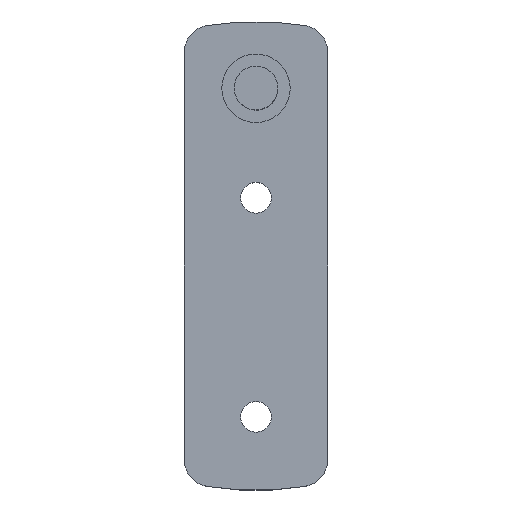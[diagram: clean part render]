
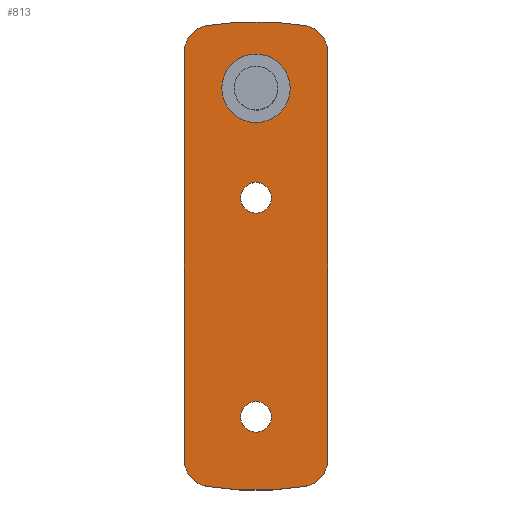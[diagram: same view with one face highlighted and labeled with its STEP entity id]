
A CAD part, top view. The second image highlights one B-rep face of the part: STEP entity #813.
In plain terms, the highlighted planar face has unit normal (0, 0, 1).
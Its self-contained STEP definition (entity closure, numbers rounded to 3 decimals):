
#3 = CARTESIAN_POINT ( 'NONE',  ( 2.25, 7.75, 3.5 ) ) ;
#30 = CARTESIAN_POINT ( 'NONE',  ( 0., 23.75, 3.5 ) ) ;
#31 = DIRECTION ( 'NONE',  ( 0., 0., 1. ) ) ;
#42 = VECTOR ( 'NONE', #441, 1000. ) ;
#83 = DIRECTION ( 'NONE',  ( -1., 0., 0. ) ) ;
#123 = DIRECTION ( 'NONE',  ( -1., 0., 0. ) ) ;
#129 = DIRECTION ( 'NONE',  ( 0., 0., -1. ) ) ;
#132 = CARTESIAN_POINT ( 'NONE',  ( 0., -1.5, 3.5 ) ) ;
#137 = PLANE ( 'NONE',  #147 ) ;
#147 = AXIS2_PLACEMENT_3D ( 'NONE', #132, #129, #123 ) ;
#165 = CARTESIAN_POINT ( 'NONE',  ( 0.94, 18.839, 3.5 ) ) ;
#166 = CARTESIAN_POINT ( 'NONE',  ( 7.138, -34.427, 3.5 ) ) ;
#168 = CARTESIAN_POINT ( 'NONE',  ( -2.25, -24.25, 3.5 ) ) ;
#179 = EDGE_CURVE ( 'NONE', #210, #876, #674, .T. ) ;
#181 = CARTESIAN_POINT ( 'NONE',  ( 10.5, 28.978, 3.5 ) ) ;
#189 = DIRECTION ( 'NONE',  ( 0., 0., 1. ) ) ;
#204 = CARTESIAN_POINT ( 'NONE',  ( -0.94, 28.661, 3.5 ) ) ;
#210 = VERTEX_POINT ( 'NONE', #166 ) ;
#238 = AXIS2_PLACEMENT_3D ( 'NONE', #369, #367, #345 ) ;
#246 = AXIS2_PLACEMENT_3D ( 'NONE', #414, #402, #408 ) ;
#248 = CARTESIAN_POINT ( 'NONE',  ( -2.25, 7.75, 3.5 ) ) ;
#258 = AXIS2_PLACEMENT_3D ( 'NONE', #427, #418, #417 ) ;
#259 = CARTESIAN_POINT ( 'NONE',  ( 7.138, 32.927, 3.5 ) ) ;
#263 = AXIS2_PLACEMENT_3D ( 'NONE', #551, #541, #533 ) ;
#267 = AXIS2_PLACEMENT_3D ( 'NONE', #606, #604, #591 ) ;
#268 = ORIENTED_EDGE ( 'NONE', *, *, #593, .F. ) ;
#269 = DIRECTION ( 'NONE',  ( 0., 0., 1. ) ) ;
#270 = AXIS2_PLACEMENT_3D ( 'NONE', #666, #646, #663 ) ;
#278 = CARTESIAN_POINT ( 'NONE',  ( 2.25, -24.25, 3.5 ) ) ;
#286 = DIRECTION ( 'NONE',  ( -1., 0., 0. ) ) ;
#290 = AXIS2_PLACEMENT_3D ( 'NONE', #30, #31, #83 ) ;
#304 = CARTESIAN_POINT ( 'NONE',  ( 6.5, -30.478, 3.5 ) ) ;
#314 = VERTEX_POINT ( 'NONE', #365 ) ;
#315 = AXIS2_PLACEMENT_3D ( 'NONE', #464, #269, #660 ) ;
#317 = CARTESIAN_POINT ( 'NONE',  ( -7.138, -34.427, 3.5 ) ) ;
#320 = AXIS2_PLACEMENT_3D ( 'NONE', #645, #684, #681 ) ;
#324 = AXIS2_PLACEMENT_3D ( 'NONE', #453, #459, #462 ) ;
#332 = AXIS2_PLACEMENT_3D ( 'NONE', #614, #393, #396 ) ;
#334 = ORIENTED_EDGE ( 'NONE', *, *, #472, .F. ) ;
#345 = DIRECTION ( 'NONE',  ( -1., 0., 0. ) ) ;
#351 = CARTESIAN_POINT ( 'NONE',  ( -10.5, 28.978, 3.5 ) ) ;
#365 = CARTESIAN_POINT ( 'NONE',  ( -7.138, 32.927, 3.5 ) ) ;
#367 = DIRECTION ( 'NONE',  ( 0., 0., 1. ) ) ;
#369 = CARTESIAN_POINT ( 'NONE',  ( 0., -11.225, 3.5 ) ) ;
#382 = DIRECTION ( 'NONE',  ( 0., 1., 0. ) ) ;
#393 = DIRECTION ( 'NONE',  ( 0., 0., 1. ) ) ;
#396 = DIRECTION ( 'NONE',  ( -1., 0., 0. ) ) ;
#402 = DIRECTION ( 'NONE',  ( 0., 0., 1. ) ) ;
#403 = AXIS2_PLACEMENT_3D ( 'NONE', #304, #189, #286 ) ;
#408 = DIRECTION ( 'NONE',  ( -1., 0., 0. ) ) ;
#414 = CARTESIAN_POINT ( 'NONE',  ( 0., -24.25, 3.5 ) ) ;
#417 = DIRECTION ( 'NONE',  ( -1., 0., 0. ) ) ;
#418 = DIRECTION ( 'NONE',  ( 0., 0., 1. ) ) ;
#420 = VERTEX_POINT ( 'NONE', #351 ) ;
#427 = CARTESIAN_POINT ( 'NONE',  ( -6.5, 28.978, 3.5 ) ) ;
#438 = EDGE_LOOP ( 'NONE', ( #762, #699, #846, #491, #832, #865, #858, #777 ) ) ;
#441 = DIRECTION ( 'NONE',  ( 0., -1., 0. ) ) ;
#443 = ORIENTED_EDGE ( 'NONE', *, *, #635, .F. ) ;
#444 = CARTESIAN_POINT ( 'NONE',  ( -10.5, -30.478, 3.5 ) ) ;
#445 = EDGE_CURVE ( 'NONE', #718, #210, #623, .T. ) ;
#447 = EDGE_CURVE ( 'NONE', #876, #633, #625, .T. ) ;
#449 = CARTESIAN_POINT ( 'NONE',  ( 10.5, 28.978, 3.5 ) ) ;
#453 = CARTESIAN_POINT ( 'NONE',  ( 0., 7.75, 3.5 ) ) ;
#456 = EDGE_LOOP ( 'NONE', ( #443, #268 ) ) ;
#459 = DIRECTION ( 'NONE',  ( 0., 0., 1. ) ) ;
#462 = DIRECTION ( 'NONE',  ( -1., 0., 0. ) ) ;
#463 = VERTEX_POINT ( 'NONE', #3 ) ;
#464 = CARTESIAN_POINT ( 'NONE',  ( 6.5, 28.978, 3.5 ) ) ;
#465 = EDGE_CURVE ( 'NONE', #748, #463, #610, .T. ) ;
#472 = EDGE_CURVE ( 'NONE', #463, #748, #607, .T. ) ;
#475 = EDGE_CURVE ( 'NONE', #633, #755, #605, .T. ) ;
#477 = FACE_BOUND ( 'NONE', #799, .T. ) ;
#486 = FACE_BOUND ( 'NONE', #456, .T. ) ;
#488 = FACE_BOUND ( 'NONE', #708, .T. ) ;
#489 = FACE_OUTER_BOUND ( 'NONE', #438, .T. ) ;
#491 = ORIENTED_EDGE ( 'NONE', *, *, #475, .T. ) ;
#502 = EDGE_CURVE ( 'NONE', #812, #805, #588, .T. ) ;
#522 = ORIENTED_EDGE ( 'NONE', *, *, #465, .F. ) ;
#529 = LINE ( 'NONE', #444, #42 ) ;
#530 = CIRCLE ( 'NONE', #238, 44.725 ) ;
#532 = CIRCLE ( 'NONE', #258, 4. ) ;
#533 = DIRECTION ( 'NONE',  ( -1., 0., 0. ) ) ;
#541 = DIRECTION ( 'NONE',  ( 0., 0., 1. ) ) ;
#542 = CIRCLE ( 'NONE', #246, 2.25 ) ;
#546 = CIRCLE ( 'NONE', #263, 5. ) ;
#550 = CIRCLE ( 'NONE', #267, 2.25 ) ;
#551 = CARTESIAN_POINT ( 'NONE',  ( 0., 23.75, 3.5 ) ) ;
#553 = EDGE_CURVE ( 'NONE', #868, #718, #561, .T. ) ;
#561 = CIRCLE ( 'NONE', #270, 4. ) ;
#588 = CIRCLE ( 'NONE', #290, 5. ) ;
#591 = DIRECTION ( 'NONE',  ( -1., 0., 0. ) ) ;
#593 = EDGE_CURVE ( 'NONE', #741, #808, #550, .T. ) ;
#604 = DIRECTION ( 'NONE',  ( 0., 0., 1. ) ) ;
#605 = CIRCLE ( 'NONE', #315, 4. ) ;
#606 = CARTESIAN_POINT ( 'NONE',  ( 0., -24.25, 3.5 ) ) ;
#607 = CIRCLE ( 'NONE', #320, 2.25 ) ;
#610 = CIRCLE ( 'NONE', #324, 2.25 ) ;
#614 = CARTESIAN_POINT ( 'NONE',  ( 0., 9.725, 3.5 ) ) ;
#615 = VECTOR ( 'NONE', #382, 1000. ) ;
#616 = EDGE_CURVE ( 'NONE', #805, #812, #546, .T. ) ;
#623 = CIRCLE ( 'NONE', #332, 44.725 ) ;
#625 = LINE ( 'NONE', #181, #615 ) ;
#632 = EDGE_CURVE ( 'NONE', #314, #420, #532, .T. ) ;
#633 = VERTEX_POINT ( 'NONE', #449 ) ;
#635 = EDGE_CURVE ( 'NONE', #808, #741, #542, .T. ) ;
#639 = EDGE_CURVE ( 'NONE', #420, #868, #529, .T. ) ;
#645 = CARTESIAN_POINT ( 'NONE',  ( 0., 7.75, 3.5 ) ) ;
#646 = DIRECTION ( 'NONE',  ( 0., 0., 1. ) ) ;
#660 = DIRECTION ( 'NONE',  ( -1., 0., 0. ) ) ;
#663 = DIRECTION ( 'NONE',  ( -1., 0., 0. ) ) ;
#666 = CARTESIAN_POINT ( 'NONE',  ( -6.5, -30.478, 3.5 ) ) ;
#674 = CIRCLE ( 'NONE', #403, 4. ) ;
#677 = EDGE_CURVE ( 'NONE', #755, #314, #530, .T. ) ;
#681 = DIRECTION ( 'NONE',  ( -1., 0., 0. ) ) ;
#684 = DIRECTION ( 'NONE',  ( 0., 0., 1. ) ) ;
#698 = ORIENTED_EDGE ( 'NONE', *, *, #502, .F. ) ;
#699 = ORIENTED_EDGE ( 'NONE', *, *, #179, .T. ) ;
#708 = EDGE_LOOP ( 'NONE', ( #522, #334 ) ) ;
#718 = VERTEX_POINT ( 'NONE', #317 ) ;
#741 = VERTEX_POINT ( 'NONE', #278 ) ;
#748 = VERTEX_POINT ( 'NONE', #248 ) ;
#755 = VERTEX_POINT ( 'NONE', #259 ) ;
#762 = ORIENTED_EDGE ( 'NONE', *, *, #445, .T. ) ;
#777 = ORIENTED_EDGE ( 'NONE', *, *, #553, .T. ) ;
#799 = EDGE_LOOP ( 'NONE', ( #698, #816 ) ) ;
#805 = VERTEX_POINT ( 'NONE', #204 ) ;
#808 = VERTEX_POINT ( 'NONE', #168 ) ;
#809 = CARTESIAN_POINT ( 'NONE',  ( -10.5, -30.478, 3.5 ) ) ;
#811 = CARTESIAN_POINT ( 'NONE',  ( 10.5, -30.478, 3.5 ) ) ;
#812 = VERTEX_POINT ( 'NONE', #165 ) ;
#813 = ADVANCED_FACE ( 'NONE', ( #477, #486, #488, #489 ), #137, .F. ) ;
#816 = ORIENTED_EDGE ( 'NONE', *, *, #616, .F. ) ;
#832 = ORIENTED_EDGE ( 'NONE', *, *, #677, .T. ) ;
#846 = ORIENTED_EDGE ( 'NONE', *, *, #447, .T. ) ;
#858 = ORIENTED_EDGE ( 'NONE', *, *, #639, .T. ) ;
#865 = ORIENTED_EDGE ( 'NONE', *, *, #632, .T. ) ;
#868 = VERTEX_POINT ( 'NONE', #809 ) ;
#876 = VERTEX_POINT ( 'NONE', #811 ) ;
